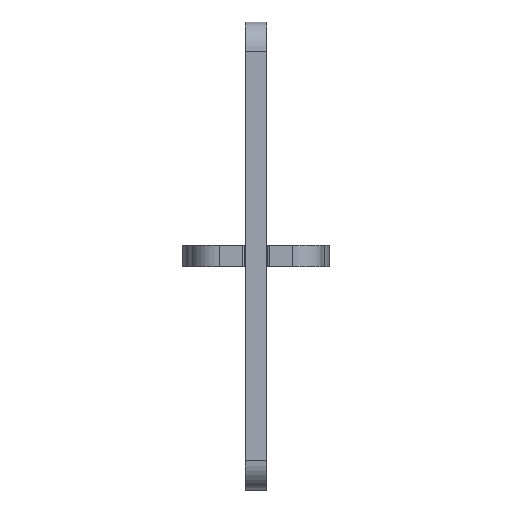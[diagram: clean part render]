
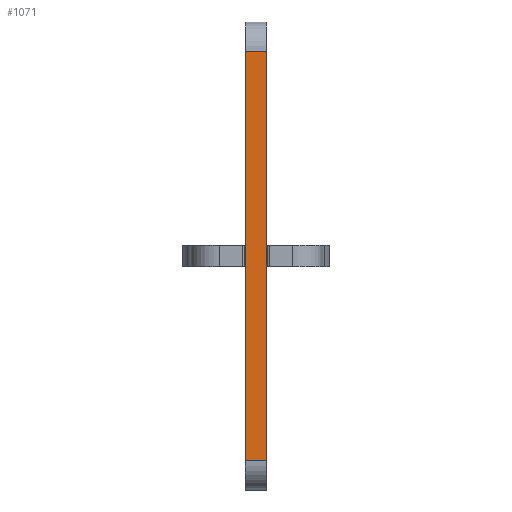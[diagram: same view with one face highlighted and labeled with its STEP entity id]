
A CAD part, front view. The second image highlights one B-rep face of the part: STEP entity #1071.
In plain terms, the highlighted planar face has unit normal (0, -1, 0).
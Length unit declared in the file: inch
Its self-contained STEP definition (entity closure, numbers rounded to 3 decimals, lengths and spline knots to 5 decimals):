
#67 = LINE ( 'NONE', #75, #1446 ) ;
#75 = CARTESIAN_POINT ( 'NONE',  ( 6., -1.25, 0.375 ) ) ;
#104 = VERTEX_POINT ( 'NONE', #739 ) ;
#159 = ORIENTED_EDGE ( 'NONE', *, *, #1288, .F. ) ;
#219 = LINE ( 'NONE', #1380, #518 ) ;
#230 = DIRECTION ( 'NONE',  ( 0., 0., -1. ) ) ;
#282 = DIRECTION ( 'NONE',  ( 0., 0., 1. ) ) ;
#291 = EDGE_CURVE ( 'NONE', #1413, #104, #1115, .T. ) ;
#350 = LINE ( 'NONE', #788, #627 ) ;
#371 = ORIENTED_EDGE ( 'NONE', *, *, #1472, .T. ) ;
#426 = CARTESIAN_POINT ( 'NONE',  ( -1., -1.25, 0.375 ) ) ;
#518 = VECTOR ( 'NONE', #230, 39.37008 ) ;
#568 = FACE_OUTER_BOUND ( 'NONE', #1523, .T. ) ;
#613 = CARTESIAN_POINT ( 'NONE',  ( -1., -1.25, 0.375 ) ) ;
#627 = VECTOR ( 'NONE', #1421, 39.37008 ) ;
#676 = DIRECTION ( 'NONE',  ( 0., 0., -1. ) ) ;
#739 = CARTESIAN_POINT ( 'NONE',  ( 6., -1.25, 0.375 ) ) ;
#788 = CARTESIAN_POINT ( 'NONE',  ( -1., -1.25, 0. ) ) ;
#820 = VERTEX_POINT ( 'NONE', #1131 ) ;
#928 = CARTESIAN_POINT ( 'NONE',  ( -1., -1.25, 0.375 ) ) ;
#969 = ORIENTED_EDGE ( 'NONE', *, *, #291, .F. ) ;
#1018 = DIRECTION ( 'NONE',  ( 0., 1., 0. ) ) ;
#1071 = ADVANCED_FACE ( 'NONE', ( #568 ), #1159, .F. ) ;
#1115 = LINE ( 'NONE', #928, #1751 ) ;
#1131 = CARTESIAN_POINT ( 'NONE',  ( 6., -1.25, 0. ) ) ;
#1159 = PLANE ( 'NONE',  #1646 ) ;
#1240 = DIRECTION ( 'NONE',  ( 1., 0., 0. ) ) ;
#1288 = EDGE_CURVE ( 'NONE', #104, #820, #67, .T. ) ;
#1380 = CARTESIAN_POINT ( 'NONE',  ( -1., -1.25, 0.375 ) ) ;
#1413 = VERTEX_POINT ( 'NONE', #613 ) ;
#1421 = DIRECTION ( 'NONE',  ( 1., 0., 0. ) ) ;
#1446 = VECTOR ( 'NONE', #676, 39.37008 ) ;
#1458 = CARTESIAN_POINT ( 'NONE',  ( -1., -1.25, 0. ) ) ;
#1472 = EDGE_CURVE ( 'NONE', #1635, #820, #350, .T. ) ;
#1517 = ORIENTED_EDGE ( 'NONE', *, *, #1756, .T. ) ;
#1523 = EDGE_LOOP ( 'NONE', ( #371, #159, #969, #1517 ) ) ;
#1635 = VERTEX_POINT ( 'NONE', #1458 ) ;
#1646 = AXIS2_PLACEMENT_3D ( 'NONE', #426, #1018, #282 ) ;
#1751 = VECTOR ( 'NONE', #1240, 39.37008 ) ;
#1756 = EDGE_CURVE ( 'NONE', #1413, #1635, #219, .T. ) ;
